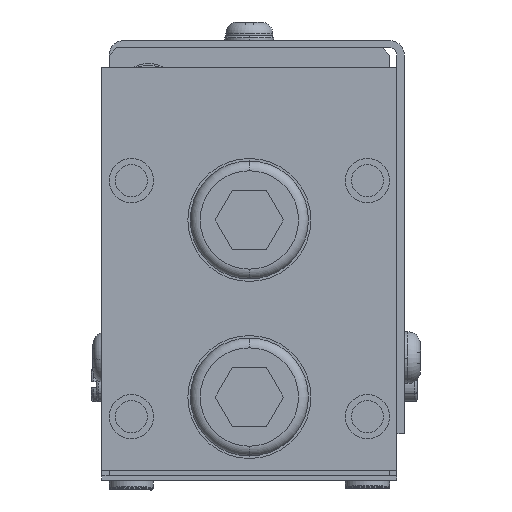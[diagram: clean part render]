
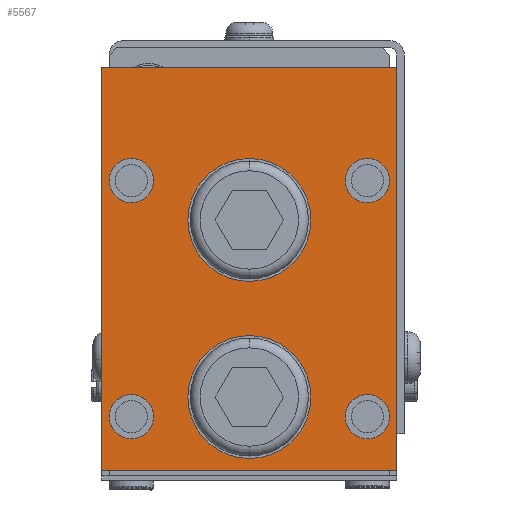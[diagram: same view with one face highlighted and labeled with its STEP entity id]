
A CAD part, front view. The second image highlights one B-rep face of the part: STEP entity #5567.
In plain terms, the highlighted planar face has unit normal (0, -1, 0).
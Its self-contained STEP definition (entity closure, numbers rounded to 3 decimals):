
#2898=CARTESIAN_POINT('',(-52.988,-293.,60.784));
#2899=VERTEX_POINT('',#2898);
#2915=CARTESIAN_POINT('',(-52.988,-293.,69.784));
#2916=VERTEX_POINT('',#2915);
#2923=CARTESIAN_POINT('',(-52.988,-293.,65.284));
#2924=DIRECTION('',(0.0,1.0,0.0));
#2925=DIRECTION('',(0.0,0.0,-1.0));
#2926=AXIS2_PLACEMENT_3D('',#2923,#2924,#2925);
#2927=CIRCLE('',#2926,4.5);
#2928=EDGE_CURVE('',#2899,#2916,#2927,.T.);
#2961=CARTESIAN_POINT('',(-4.988,-293.,12.784));
#2962=VERTEX_POINT('',#2961);
#2978=CARTESIAN_POINT('',(-4.988,-293.,21.784));
#2979=VERTEX_POINT('',#2978);
#2986=CARTESIAN_POINT('',(-4.988,-293.,17.284));
#2987=DIRECTION('',(0.0,1.0,0.0));
#2988=DIRECTION('',(0.0,0.0,-1.0));
#2989=AXIS2_PLACEMENT_3D('',#2986,#2987,#2988);
#2990=CIRCLE('',#2989,4.5);
#2991=EDGE_CURVE('',#2962,#2979,#2990,.T.);
#3024=CARTESIAN_POINT('',(-4.988,-293.,60.784));
#3025=VERTEX_POINT('',#3024);
#3041=CARTESIAN_POINT('',(-4.988,-293.,69.784));
#3042=VERTEX_POINT('',#3041);
#3049=CARTESIAN_POINT('',(-4.988,-293.,65.284));
#3050=DIRECTION('',(0.0,1.0,0.0));
#3051=DIRECTION('',(0.0,0.0,-1.0));
#3052=AXIS2_PLACEMENT_3D('',#3049,#3050,#3051);
#3053=CIRCLE('',#3052,4.5);
#3054=EDGE_CURVE('',#3025,#3042,#3053,.T.);
#3087=CARTESIAN_POINT('',(-52.988,-293.,12.784));
#3088=VERTEX_POINT('',#3087);
#3104=CARTESIAN_POINT('',(-52.988,-293.,21.784));
#3105=VERTEX_POINT('',#3104);
#3112=CARTESIAN_POINT('',(-52.988,-293.,17.284));
#3113=DIRECTION('',(0.0,1.0,0.0));
#3114=DIRECTION('',(0.0,0.0,-1.0));
#3115=AXIS2_PLACEMENT_3D('',#3112,#3113,#3114);
#3116=CIRCLE('',#3115,4.5);
#3117=EDGE_CURVE('',#3088,#3105,#3116,.T.);
#3150=CARTESIAN_POINT('',(-28.988,-293.,8.784));
#3151=VERTEX_POINT('',#3150);
#3167=CARTESIAN_POINT('',(-28.988,-293.,33.784));
#3168=VERTEX_POINT('',#3167);
#3175=CARTESIAN_POINT('',(-28.988,-293.,21.284));
#3176=DIRECTION('',(0.0,1.0,0.0));
#3177=DIRECTION('',(0.0,0.0,-1.0));
#3178=AXIS2_PLACEMENT_3D('',#3175,#3176,#3177);
#3179=CIRCLE('',#3178,12.5);
#3180=EDGE_CURVE('',#3151,#3168,#3179,.T.);
#3213=CARTESIAN_POINT('',(-28.988,-293.,44.784));
#3214=VERTEX_POINT('',#3213);
#3230=CARTESIAN_POINT('',(-28.988,-293.,69.784));
#3231=VERTEX_POINT('',#3230);
#3238=CARTESIAN_POINT('',(-28.988,-293.,57.284));
#3239=DIRECTION('',(0.0,1.0,0.0));
#3240=DIRECTION('',(0.0,0.0,-1.0));
#3241=AXIS2_PLACEMENT_3D('',#3238,#3239,#3240);
#3242=CIRCLE('',#3241,12.5);
#3243=EDGE_CURVE('',#3214,#3231,#3242,.T.);
#4663=CARTESIAN_POINT('',(-28.988,-293.,57.284));
#4664=DIRECTION('',(0.0,1.0,0.0));
#4665=DIRECTION('',(0.0,0.0,-1.0));
#4666=AXIS2_PLACEMENT_3D('',#4663,#4664,#4665);
#4667=CIRCLE('',#4666,12.5);
#4668=EDGE_CURVE('',#3231,#3214,#4667,.T.);
#4728=CARTESIAN_POINT('',(-28.988,-293.,21.284));
#4729=DIRECTION('',(0.0,1.0,0.0));
#4730=DIRECTION('',(0.0,0.0,-1.0));
#4731=AXIS2_PLACEMENT_3D('',#4728,#4729,#4730);
#4732=CIRCLE('',#4731,12.5);
#4733=EDGE_CURVE('',#3168,#3151,#4732,.T.);
#4767=CARTESIAN_POINT('',(-52.988,-293.,17.284));
#4768=DIRECTION('',(0.0,1.0,0.0));
#4769=DIRECTION('',(0.0,0.0,-1.0));
#4770=AXIS2_PLACEMENT_3D('',#4767,#4768,#4769);
#4771=CIRCLE('',#4770,4.5);
#4772=EDGE_CURVE('',#3105,#3088,#4771,.T.);
#4832=CARTESIAN_POINT('',(-4.988,-293.,65.284));
#4833=DIRECTION('',(0.0,1.0,0.0));
#4834=DIRECTION('',(0.0,0.0,-1.0));
#4835=AXIS2_PLACEMENT_3D('',#4832,#4833,#4834);
#4836=CIRCLE('',#4835,4.5);
#4837=EDGE_CURVE('',#3042,#3025,#4836,.T.);
#4897=CARTESIAN_POINT('',(-4.988,-293.,17.284));
#4898=DIRECTION('',(0.0,1.0,0.0));
#4899=DIRECTION('',(0.0,0.0,-1.0));
#4900=AXIS2_PLACEMENT_3D('',#4897,#4898,#4899);
#4901=CIRCLE('',#4900,4.5);
#4902=EDGE_CURVE('',#2979,#2962,#4901,.T.);
#4962=CARTESIAN_POINT('',(-52.988,-293.,65.284));
#4963=DIRECTION('',(0.0,1.0,0.0));
#4964=DIRECTION('',(0.0,0.0,-1.0));
#4965=AXIS2_PLACEMENT_3D('',#4962,#4963,#4964);
#4966=CIRCLE('',#4965,4.5);
#4967=EDGE_CURVE('',#2916,#2899,#4966,.T.);
#5397=CARTESIAN_POINT('',(-58.988,-293.,88.284));
#5398=VERTEX_POINT('',#5397);
#5399=CARTESIAN_POINT('',(1.012,-293.,88.284));
#5400=VERTEX_POINT('',#5399);
#5401=CARTESIAN_POINT('',(-58.988,-293.,88.284));
#5402=DIRECTION('',(1.0,0.0,0.0));
#5403=VECTOR('',#5402,60.0);
#5404=LINE('',#5401,#5403);
#5405=EDGE_CURVE('',#5398,#5400,#5404,.T.);
#5437=CARTESIAN_POINT('',(1.012,-293.,6.284));
#5438=VERTEX_POINT('',#5437);
#5439=CARTESIAN_POINT('',(1.012,-293.,88.284));
#5440=DIRECTION('',(0.0,0.0,-1.0));
#5441=VECTOR('',#5440,82.);
#5442=LINE('',#5439,#5441);
#5443=EDGE_CURVE('',#5400,#5438,#5442,.T.);
#5476=CARTESIAN_POINT('',(-58.988,-293.,6.284));
#5477=VERTEX_POINT('',#5476);
#5478=CARTESIAN_POINT('',(1.012,-293.,6.284));
#5479=DIRECTION('',(-1.0,0.0,0.0));
#5480=VECTOR('',#5479,60.0);
#5481=LINE('',#5478,#5480);
#5482=EDGE_CURVE('',#5438,#5477,#5481,.T.);
#5507=CARTESIAN_POINT('',(-58.988,-293.,6.284));
#5508=DIRECTION('',(0.0,0.0,1.0));
#5509=VECTOR('',#5508,82.);
#5510=LINE('',#5507,#5509);
#5511=EDGE_CURVE('',#5477,#5398,#5510,.T.);
#5532=CARTESIAN_POINT('',(-28.988,-293.,47.284));
#5533=DIRECTION('',(0.0,1.0,0.0));
#5534=DIRECTION('',(1.0,0.0,0.0));
#5535=AXIS2_PLACEMENT_3D('',#5532,#5533,#5534);
#5536=PLANE('',#5535);
#5537=ORIENTED_EDGE('',*,*,#5405,.F.);
#5538=ORIENTED_EDGE('',*,*,#5511,.F.);
#5539=ORIENTED_EDGE('',*,*,#5482,.F.);
#5540=ORIENTED_EDGE('',*,*,#5443,.F.);
#5541=EDGE_LOOP('',(#5537,#5538,#5539,#5540));
#5542=FACE_OUTER_BOUND('',#5541,.T.);
#5543=ORIENTED_EDGE('',*,*,#3243,.T.);
#5544=ORIENTED_EDGE('',*,*,#4668,.T.);
#5545=EDGE_LOOP('',(#5543,#5544));
#5546=FACE_BOUND('',#5545,.T.);
#5547=ORIENTED_EDGE('',*,*,#3180,.T.);
#5548=ORIENTED_EDGE('',*,*,#4733,.T.);
#5549=EDGE_LOOP('',(#5547,#5548));
#5550=FACE_BOUND('',#5549,.T.);
#5551=ORIENTED_EDGE('',*,*,#3117,.T.);
#5552=ORIENTED_EDGE('',*,*,#4772,.T.);
#5553=EDGE_LOOP('',(#5551,#5552));
#5554=FACE_BOUND('',#5553,.T.);
#5555=ORIENTED_EDGE('',*,*,#3054,.T.);
#5556=ORIENTED_EDGE('',*,*,#4837,.T.);
#5557=EDGE_LOOP('',(#5555,#5556));
#5558=FACE_BOUND('',#5557,.T.);
#5559=ORIENTED_EDGE('',*,*,#2991,.T.);
#5560=ORIENTED_EDGE('',*,*,#4902,.T.);
#5561=EDGE_LOOP('',(#5559,#5560));
#5562=FACE_BOUND('',#5561,.T.);
#5563=ORIENTED_EDGE('',*,*,#2928,.T.);
#5564=ORIENTED_EDGE('',*,*,#4967,.T.);
#5565=EDGE_LOOP('',(#5563,#5564));
#5566=FACE_BOUND('',#5565,.T.);
#5567=ADVANCED_FACE('',(#5542,#5546,#5550,#5554,#5558,#5562,#5566),#5536,.F.);
